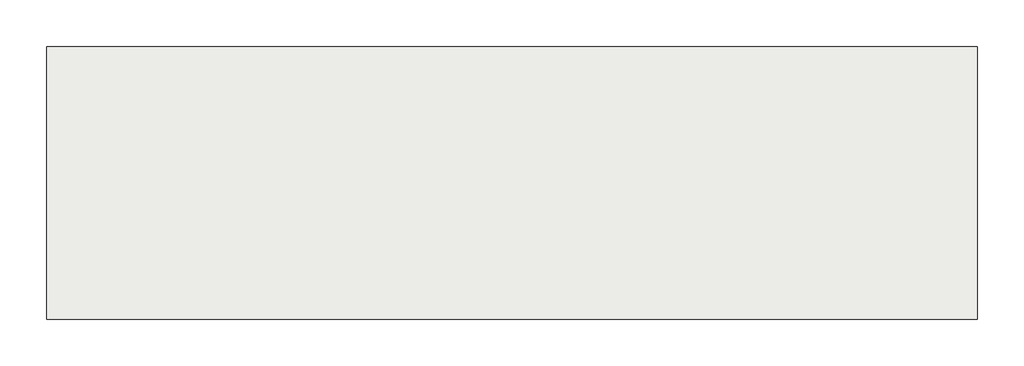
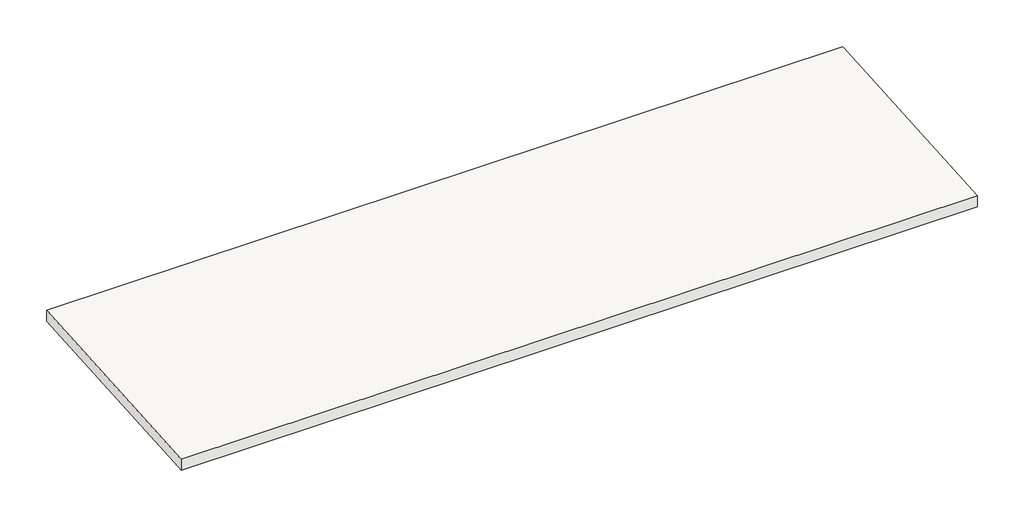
# One storey: 1 roof.
"""IFC4 building model written with IfcOpenShell, lengths in millimetres."""

from ifc_helpers import new_model, si_unit, origin, place, context, project, spatial, faceted_brep, element, save

model = new_model("IFC4")

# Units and contexts
model_context = context("Model", 3, world=origin())
ifc_project = project(units=[si_unit("LENGTHUNIT", "METRE", prefix="MILLI")], contexts=[model_context])

# Site, building, storey
site = spatial("IfcSite", under=ifc_project)
building = spatial("IfcBuilding", under=site)
storey = spatial("IfcBuildingStorey", under=building, Name="5.67_Arase lucarne", Elevation=5670.0)

# Roof
placement = place(None, origin())
element("IfcRoof", 1, ObjectType="Toiture", at=placement, inside=storey, context=model_context, shape_type="Brep", body=[
    faceted_brep([(-16831.7726031, 5182.4512571, 5427.2583971), (-16831.7726031, 5219.9231713, 5429.8786886), (-16831.7726031, 7220.2592048, 5569.7558102), (-9871.7726031, 7220.2592048, 5569.7558102), (-9871.7726031, 5219.9231713, 5429.8786886), (-9871.7726031, 5182.4512571, 5427.2583971), (-16831.7726031, 7220.2592048, 5670.0), (-16831.7726031, 5182.4512571, 5527.5025869), (-9871.7726031, 5182.4512571, 5527.5025869), (-9871.7726031, 7220.2592048, 5670.0)], [[[0, 1, 2, 3, 4, 5]], [[6, 7, 8, 9]], [[5, 8, 7, 0]], [[7, 6, 2, 1, 0]], [[6, 9, 3, 2]], [[9, 8, 5, 4, 3]]]),
])

save(model, "model.ifc")
